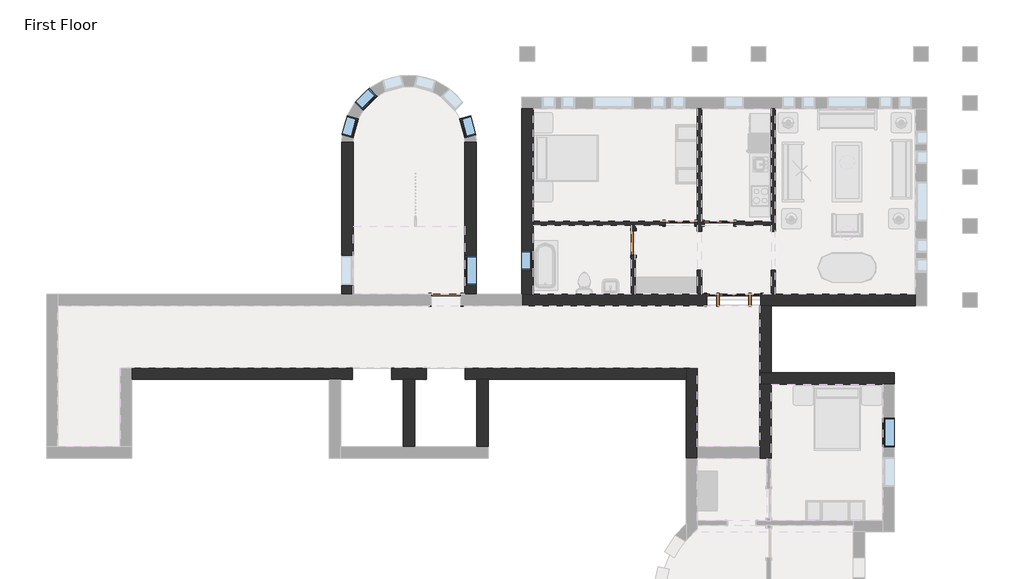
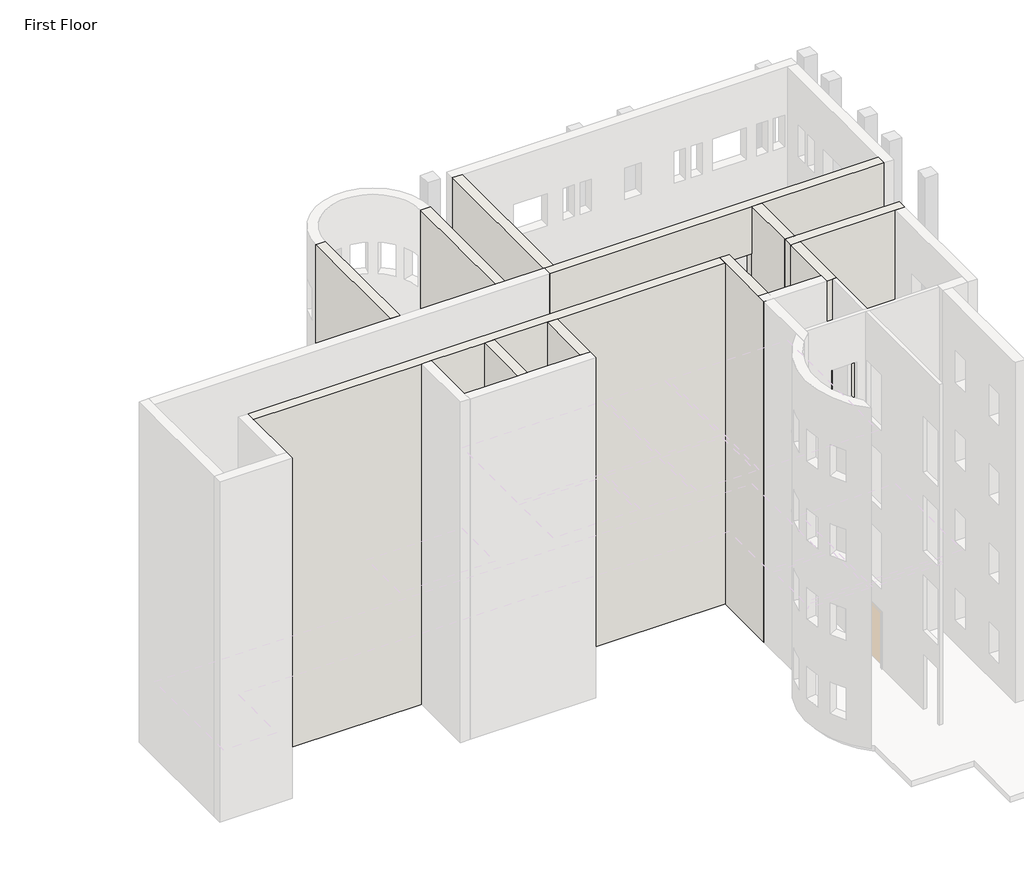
# One storey, part 3 of 8: 17 walls, 6 windows, 5 doors.
"""IFC4 building model written with IfcOpenShell, lengths in millimetres."""

from ifc_helpers import new_model, si_unit, frame, origin, origin_with_axes, place, context, project, spatial, polyline, outline, extrude, faceted_brep, transform, mapped, element, save
from components import door_829da954, door_2e3b4da2, door_4d6c7550, door_632be17d, door_dba5aa2e, window_60baf983, window_15c49d37, m_fixed_0915_x_1220mm_ca90dcf7

model = new_model("IFC4")

# Units and contexts
model_context = context("Model", 3, world=origin())
ifc_project = project(units=[si_unit("LENGTHUNIT", "METRE", prefix="MILLI")], contexts=[model_context])

# Site, building, storey
site = spatial("IfcSite", under=ifc_project)
building = spatial("IfcBuilding", under=site)
storey = spatial("IfcBuildingStorey", under=building, Name="First Floor", Elevation=0.0)

# Doors
placement = place(None, origin())
door_shape = door_829da954(model_context)
element("IfcDoor", 1, ObjectType="Single-Decorative 2 : 36\" x 84\"", at=placement, inside=storey, context=model_context, shape_type="MappedRepresentation", body=[
    mapped(door_shape, transform((-5449.8589563, 6723.5441867, 0.0), x_axis=(-1.0, 0.0, 0.0), y_axis=(0.0, -1.0, 0.0), z_axis=(0.0, 0.0, 1.0))),
])
door_2_shape = door_2e3b4da2(model_context)
element("IfcDoor", 2, ObjectType="Single-Decorative 2 : 36\" x 84\"", at=placement, inside=storey, context=model_context, shape_type="MappedRepresentation", body=[
    mapped(door_2_shape, transform((-6669.0589563, 6723.5441867, 0.0), x_axis=(1.0, 0.0, 0.0), y_axis=(0.0, 1.0, 0.0), z_axis=(0.0, 0.0, 1.0))),
])
door_3_shape = door_4d6c7550(model_context)
element("IfcDoor", 3, ObjectType="Single-Flush : 30\" x 84\"", at=placement, inside=storey, context=model_context, shape_type="MappedRepresentation", body=[
    mapped(door_3_shape, transform((-8105.7464563, 6113.9441867, 0.0), x_axis=(0.0, 1.0, 0.0), y_axis=(-1.0, 0.0, 0.0), z_axis=(0.0, 0.0, 1.0))),
])
door_4_shape = door_632be17d(model_context)
element("IfcDoor", 4, ObjectType="Single-Flush : 36\" x 84\"", at=placement, inside=storey, context=model_context, shape_type="MappedRepresentation", body=[
    mapped(door_4_shape, transform((-13919.1714563, 4350.2316867, 0.0), x_axis=(1.0, 0.0, 0.0), y_axis=(0.0, 1.0, 0.0), z_axis=(0.0, 0.0, 1.0))),
])
door_5_shape = door_dba5aa2e(model_context)
element("IfcDoor", 5, ObjectType="Single-Raised Panel with Sidelights : 36\" x 84\"", at=placement, inside=storey, context=model_context, shape_type="MappedRepresentation", body=[
    mapped(door_5_shape, transform((-4992.6589563, 4350.2316867, 0.0), x_axis=(-1.0, 0.0, 0.0), y_axis=(0.0, -1.0, 0.0), z_axis=(0.0, 0.0, 1.0))),
])

# Walls
element("IfcWall", 6, ObjectType="Exterior - Brick on Mtl. Stud", at=placement, inside=storey, context=model_context, shape_type="Brep", body=[
    faceted_brep([(-11545.8589563, 4526.4441867, 13106.4), (-11545.8589563, 4526.4441867, 0.0), (-11545.8589563, 4174.0191867, 0.0), (-11545.8589563, 4174.0191867, 13106.4), (-11217.2464563, 4526.4441867, 0.0), (-8169.2464563, 4526.4441867, 0.0), (-8042.2464563, 4526.4441867, 0.0), (-6122.9589563, 4526.4441867, 0.0), (-5995.9589563, 4526.4441867, 0.0), (-5830.8589563, 4526.4441867, 0.0), (-5830.8589563, 4174.0191867, 0.0), (-4154.4589563, 4526.4441867, 0.0), (-3836.9589563, 4526.4441867, 0.0), (-3709.9589563, 4526.4441867, 0.0), (622.3285437, 4526.4441867, 0.0), (622.3285437, 4174.0191867, 0.0), (-3836.9589563, 4174.0191867, 0.0), (-4154.4589563, 4174.0191867, 0.0), (622.3285437, 4526.4441867, 13106.4), (-11217.2464563, 4526.4441867, 13106.4), (-4189.3839563, 4174.0191867, 13106.4), (-3836.9589563, 4174.0191867, 13106.4), (622.3285437, 4174.0191867, 13106.4), (-5830.8589563, 4526.4441867, 2133.6), (-4154.4589563, 4526.4441867, 2133.6), (-4154.4589563, 4526.4441867, 6096.0), (-4154.4589563, 4526.4441867, 8229.6), (-5830.8589563, 4526.4441867, 8229.6), (-5830.8589563, 4526.4441867, 6096.0), (-4154.4589563, 4526.4441867, 3048.0), (-4154.4589563, 4526.4441867, 5181.6), (-5830.8589563, 4526.4441867, 5181.6), (-5830.8589563, 4526.4441867, 3048.0), (-4154.4589563, 4526.4441867, 9144.0), (-4154.4589563, 4526.4441867, 11277.6), (-5830.8589563, 4526.4441867, 11277.6), (-5830.8589563, 4526.4441867, 9144.0), (-5830.8589563, 4174.0191867, 2133.6), (-4154.4589563, 4174.0191867, 2133.6), (-4154.4589563, 4174.0191867, 6096.0), (-5830.8589563, 4174.0191867, 6096.0), (-5830.8589563, 4174.0191867, 8229.6), (-4154.4589563, 4174.0191867, 8229.6), (-4154.4589563, 4174.0191867, 3048.0), (-5830.8589563, 4174.0191867, 3048.0), (-5830.8589563, 4174.0191867, 5181.6), (-4154.4589563, 4174.0191867, 5181.6), (-4154.4589563, 4174.0191867, 9144.0), (-5830.8589563, 4174.0191867, 9144.0), (-5830.8589563, 4174.0191867, 11277.6), (-4154.4589563, 4174.0191867, 11277.6)], [[[0, 1, 2, 3]], [[1, 4, 5, 6, 7, 8, 9, 10, 2]], [[11, 12, 13, 14, 15, 16, 17]], [[18, 19, 0, 3, 20, 21, 22]], [[23, 9, 8, 7, 6, 5, 4, 1, 0, 19, 18, 14, 13, 12, 11, 24], [25, 26, 27, 28], [29, 30, 31, 32], [33, 34, 35, 36]], [[2, 10, 37, 38, 17, 16, 15, 22, 21, 20, 3], [39, 40, 41, 42], [43, 44, 45, 46], [47, 48, 49, 50]], [[14, 18, 22, 15]], [[37, 10, 9, 23]], [[38, 37, 23, 24]], [[17, 38, 24, 11]], [[40, 39, 25, 28]], [[41, 40, 28, 27]], [[42, 41, 27, 26]], [[39, 42, 26, 25]], [[44, 43, 29, 32]], [[45, 44, 32, 31]], [[46, 45, 31, 30]], [[43, 46, 30, 29]], [[48, 47, 33, 36]], [[49, 48, 36, 35]], [[50, 49, 35, 34]], [[47, 50, 34, 33]]]),
])
element("IfcWall", 7, ObjectType="Exterior - Brick on Mtl. Stud", at=placement, inside=storey, context=model_context, shape_type="Brep", body=[
    faceted_brep([(-11217.2464563, 4526.4441867, 13106.4), (-11217.2464563, 10270.0191867, 13106.4), (-11569.6714563, 10270.0191867, 13106.4), (-11569.6714563, 4526.4441867, 13106.4), (-11545.8589563, 4526.4441867, 13106.4), (-11217.2464563, 4526.4441867, 0.0), (-11217.2464563, 6660.0441867, 0.0), (-11217.2464563, 6787.0441867, 0.0), (-11217.2464563, 10270.0191867, 0.0), (-11217.2464563, 5264.6316867, 8229.6), (-11217.2464563, 5874.2316867, 8229.6), (-11217.2464563, 5874.2316867, 7010.4), (-11217.2464563, 5264.6316867, 7010.4), (-11217.2464563, 5264.6316867, 5181.6), (-11217.2464563, 5874.2316867, 5181.6), (-11217.2464563, 5874.2316867, 3962.4), (-11217.2464563, 5264.6316867, 3962.4), (-11217.2464563, 5264.6316867, 11277.6), (-11217.2464563, 5874.2316867, 11277.6), (-11217.2464563, 5874.2316867, 10058.4), (-11217.2464563, 5264.6316867, 10058.4), (-11217.2464563, 5264.6316867, 2133.6), (-11217.2464563, 5874.2316867, 2133.6), (-11217.2464563, 5874.2316867, 914.4), (-11217.2464563, 5264.6316867, 914.4), (-11569.6714563, 4526.4441867, 0.0), (-11569.6714563, 10270.0191867, 0.0), (-11569.6714563, 5264.6316867, 8229.6), (-11569.6714563, 5264.6316867, 7010.4), (-11569.6714563, 5874.2316867, 7010.4), (-11569.6714563, 5874.2316867, 8229.6), (-11569.6714563, 5264.6316867, 5181.6), (-11569.6714563, 5264.6316867, 3962.4), (-11569.6714563, 5874.2316867, 3962.4), (-11569.6714563, 5874.2316867, 5181.6), (-11569.6714563, 5264.6316867, 11277.6), (-11569.6714563, 5264.6316867, 10058.4), (-11569.6714563, 5874.2316867, 10058.4), (-11569.6714563, 5874.2316867, 11277.6), (-11569.6714563, 5264.6316867, 2133.6), (-11569.6714563, 5264.6316867, 914.4), (-11569.6714563, 5874.2316867, 914.4), (-11569.6714563, 5874.2316867, 2133.6), (-11545.8589563, 4526.4441867, 0.0), (-11382.3464563, 4526.4441867, 0.0), (-11382.3464563, 10270.0191867, 0.0)], [[[0, 1, 2, 3, 4]], [[5, 6, 7, 8, 1, 0], [9, 10, 11, 12], [13, 14, 15, 16], [17, 18, 19, 20], [21, 22, 23, 24]], [[25, 3, 2, 26], [27, 28, 29, 30], [31, 32, 33, 34], [35, 36, 37, 38], [39, 40, 41, 42]], [[5, 0, 4, 3, 25, 43, 44]], [[1, 8, 45, 26, 2]], [[44, 43, 25, 26, 45]], [[8, 7, 6, 5, 44, 45]], [[28, 27, 9, 12]], [[29, 28, 12, 11]], [[30, 29, 11, 10]], [[27, 30, 10, 9]], [[32, 31, 13, 16]], [[33, 32, 16, 15]], [[34, 33, 15, 14]], [[31, 34, 14, 13]], [[36, 35, 17, 20]], [[37, 36, 20, 19]], [[38, 37, 19, 18]], [[35, 38, 18, 17]], [[40, 39, 21, 24]], [[41, 40, 24, 23]], [[42, 41, 23, 22]], [[39, 42, 22, 21]]]),
])
element("IfcWall", 8, ObjectType="Exterior - Brick on Mtl. Stud", at=placement, inside=storey, context=model_context, shape_type="SweptSolid", body=[
    extrude(outline(polyline([(-12599.9589563, 1888.0191867), (-12599.9589563, -197.9558133), (-12952.3839563, -197.9558133), (-12952.3839563, 1888.0191867), (-12599.9589563, 1888.0191867)])), origin_with_axes(), (0.0, 0.0, 1.0), 13106.4),
])
element("IfcWall", 9, ObjectType="Exterior - Brick on Mtl. Stud", at=placement, inside=storey, context=model_context, shape_type="Brep", body=[
    faceted_brep([(-23648.9589563, 2240.4441867, 0.0), (-16814.7714563, 2240.4441867, 0.0), (-16814.7714563, 1888.0191867, 0.0), (-17171.9589563, 1888.0191867, 0.0), (-17524.3839563, 1888.0191867, 0.0), (-23648.9589563, 1888.0191867, 0.0), (-15595.5714563, 2240.4441867, 0.0), (-14528.7714563, 2240.4441867, 0.0), (-14528.7714563, 1888.0191867, 0.0), (-14885.9589563, 1888.0191867, 0.0), (-15238.3839563, 1888.0191867, 0.0), (-15595.5714563, 1888.0191867, 0.0), (-13309.5714563, 2240.4441867, 0.0), (-6475.3839563, 2240.4441867, 0.0), (-6475.3839563, 1888.0191867, 0.0), (-12599.9589563, 1888.0191867, 0.0), (-12952.3839563, 1888.0191867, 0.0), (-13309.5714563, 1888.0191867, 0.0), (-23648.9589563, 1888.0191867, 13106.4), (-17524.3839563, 1888.0191867, 13106.4), (-17171.9589563, 1888.0191867, 13106.4), (-15238.3839563, 1888.0191867, 13106.4), (-14885.9589563, 1888.0191867, 13106.4), (-12952.3839563, 1888.0191867, 13106.4), (-12599.9589563, 1888.0191867, 13106.4), (-6475.3839563, 1888.0191867, 13106.4), (-6475.3839563, 2240.4441867, 13106.4), (-23648.9589563, 2240.4441867, 13106.4), (-14528.7714563, 1888.0191867, 2133.6), (-13309.5714563, 1888.0191867, 2133.6), (-16814.7714563, 1888.0191867, 2133.6), (-15595.5714563, 1888.0191867, 2133.6), (-13309.5714563, 1888.0191867, 8229.6), (-13309.5714563, 1888.0191867, 6096.0), (-14528.7714563, 1888.0191867, 6096.0), (-14528.7714563, 1888.0191867, 8229.6), (-15595.5714563, 1888.0191867, 8229.6), (-15595.5714563, 1888.0191867, 6096.0), (-16814.7714563, 1888.0191867, 6096.0), (-16814.7714563, 1888.0191867, 8229.6), (-13309.5714563, 1888.0191867, 5181.6), (-13309.5714563, 1888.0191867, 3048.0), (-14528.7714563, 1888.0191867, 3048.0), (-14528.7714563, 1888.0191867, 5181.6), (-15595.5714563, 1888.0191867, 5181.6), (-15595.5714563, 1888.0191867, 3048.0), (-16814.7714563, 1888.0191867, 3048.0), (-16814.7714563, 1888.0191867, 5181.6), (-13309.5714563, 1888.0191867, 11277.6), (-13309.5714563, 1888.0191867, 9144.0), (-14528.7714563, 1888.0191867, 9144.0), (-14528.7714563, 1888.0191867, 11277.6), (-15595.5714563, 1888.0191867, 11277.6), (-15595.5714563, 1888.0191867, 9144.0), (-16814.7714563, 1888.0191867, 9144.0), (-16814.7714563, 1888.0191867, 11277.6), (-14528.7714563, 2240.4441867, 2133.6), (-15595.5714563, 2240.4441867, 2133.6), (-16814.7714563, 2240.4441867, 2133.6), (-13309.5714563, 2240.4441867, 2133.6), (-13309.5714563, 2240.4441867, 8229.6), (-14528.7714563, 2240.4441867, 8229.6), (-14528.7714563, 2240.4441867, 6096.0), (-13309.5714563, 2240.4441867, 6096.0), (-15595.5714563, 2240.4441867, 8229.6), (-16814.7714563, 2240.4441867, 8229.6), (-16814.7714563, 2240.4441867, 6096.0), (-15595.5714563, 2240.4441867, 6096.0), (-13309.5714563, 2240.4441867, 5181.6), (-14528.7714563, 2240.4441867, 5181.6), (-14528.7714563, 2240.4441867, 3048.0), (-13309.5714563, 2240.4441867, 3048.0), (-15595.5714563, 2240.4441867, 5181.6), (-16814.7714563, 2240.4441867, 5181.6), (-16814.7714563, 2240.4441867, 3048.0), (-15595.5714563, 2240.4441867, 3048.0), (-13309.5714563, 2240.4441867, 11277.6), (-14528.7714563, 2240.4441867, 11277.6), (-14528.7714563, 2240.4441867, 9144.0), (-13309.5714563, 2240.4441867, 9144.0), (-15595.5714563, 2240.4441867, 11277.6), (-16814.7714563, 2240.4441867, 11277.6), (-16814.7714563, 2240.4441867, 9144.0), (-15595.5714563, 2240.4441867, 9144.0)], [[[0, 1, 2, 3, 4, 5]], [[6, 7, 8, 9, 10, 11]], [[12, 13, 14, 15, 16, 17]], [[18, 19, 20, 21, 22, 23, 24, 25, 26, 27]], [[11, 10, 9, 8, 28, 29, 17, 16, 15, 14, 25, 24, 23, 22, 21, 20, 19, 18, 5, 4, 3, 2, 30, 31], [32, 33, 34, 35], [36, 37, 38, 39], [40, 41, 42, 43], [44, 45, 46, 47], [48, 49, 50, 51], [52, 53, 54, 55]], [[56, 7, 6, 57, 58, 1, 0, 27, 26, 13, 12, 59], [60, 61, 62, 63], [64, 65, 66, 67], [68, 69, 70, 71], [72, 73, 74, 75], [76, 77, 78, 79], [80, 81, 82, 83]], [[25, 14, 13, 26]], [[5, 18, 27, 0]], [[11, 31, 57, 6]], [[30, 2, 1, 58]], [[31, 30, 58, 57]], [[17, 29, 59, 12]], [[28, 8, 7, 56]], [[29, 28, 56, 59]], [[33, 32, 60, 63]], [[34, 33, 63, 62]], [[35, 34, 62, 61]], [[32, 35, 61, 60]], [[37, 36, 64, 67]], [[38, 37, 67, 66]], [[39, 38, 66, 65]], [[36, 39, 65, 64]], [[41, 40, 68, 71]], [[42, 41, 71, 70]], [[43, 42, 70, 69]], [[40, 43, 69, 68]], [[45, 44, 72, 75]], [[46, 45, 75, 74]], [[47, 46, 74, 73]], [[44, 47, 73, 72]], [[49, 48, 76, 79]], [[50, 49, 79, 78]], [[51, 50, 78, 77]], [[48, 51, 77, 76]], [[53, 52, 80, 83]], [[54, 53, 83, 82]], [[55, 54, 82, 81]], [[52, 55, 81, 80]]]),
])
element("IfcWall", 10, ObjectType="Exterior - Brick on Mtl. Stud", at=placement, inside=storey, context=model_context, shape_type="SweptSolid", body=[
    extrude(outline(polyline([(4526.4441867, 0.0), (4526.4441867, 13106.4), (9227.0316867, 13106.4), (9227.0316867, 0.0), (4526.4441867, 0.0)]), holes=[polyline([(4807.4316867, 8229.6), (4807.4316867, 7010.4), (5721.8316867, 7010.4), (5721.8316867, 8229.6), (4807.4316867, 8229.6)]), polyline([(4807.4316867, 5181.6), (4807.4316867, 3962.4), (5721.8316867, 3962.4), (5721.8316867, 5181.6), (4807.4316867, 5181.6)]), polyline([(4807.4316867, 11277.6), (4807.4316867, 10058.4), (5721.8316867, 10058.4), (5721.8316867, 11277.6), (4807.4316867, 11277.6)]), polyline([(4807.4316867, 2133.6), (4807.4316867, 914.4), (5721.8316867, 914.4), (5721.8316867, 2133.6), (4807.4316867, 2133.6)])]), frame((-17143.3839563, 0.0, 0.0), z_axis=(1.0, 0.0, 0.0), x_axis=(0.0, 1.0, 0.0)), (0.0, 0.0, 1.0), 352.425),
])
element("IfcWall", 11, ObjectType="Exterior - Brick on Mtl. Stud", at=placement, inside=storey, context=model_context, shape_type="SweptSolid", body=[
    extrude(outline(polyline([(4526.4441867, 0.0), (4526.4441867, 13106.4), (9227.0316867, 13106.4), (9227.0316867, 0.0), (4526.4441867, 0.0)]), holes=[polyline([(5721.8316867, 8229.6), (4807.4316867, 8229.6), (4807.4316867, 7010.4), (5721.8316867, 7010.4), (5721.8316867, 8229.6)]), polyline([(5721.8316867, 5181.6), (4807.4316867, 5181.6), (4807.4316867, 3962.4), (5721.8316867, 3962.4), (5721.8316867, 5181.6)]), polyline([(5721.8316867, 11277.6), (4807.4316867, 11277.6), (4807.4316867, 10058.4), (5721.8316867, 10058.4), (5721.8316867, 11277.6)]), polyline([(5721.8316867, 2133.6), (4807.4316867, 2133.6), (4807.4316867, 914.4), (5721.8316867, 914.4), (5721.8316867, 2133.6)])]), frame((-13333.3839563, 0.0, 0.0), z_axis=(1.0, 0.0, 0.0), x_axis=(0.0, 1.0, 0.0)), (0.0, 0.0, 1.0), 352.425),
])
element("IfcWall", 12, ObjectType="Exterior - Brick on Mtl. Stud", at=placement, inside=storey, context=model_context, shape_type="SweptSolid", body=[
    extrude(outline(polyline([(-14885.9589563, 1888.0191867), (-14885.9589563, -197.9558133), (-15238.3839563, -197.9558133), (-15238.3839563, 1888.0191867), (-14885.9589563, 1888.0191867)])), origin_with_axes(), (0.0, 0.0, 1.0), 13106.4),
])
element("IfcWall", 13, ObjectType="Exterior - Brick on Mtl. Stud", at=placement, inside=storey, context=model_context, shape_type="Brep", body=[
    faceted_brep([(-6475.3839563, 2240.4441867, 0.0), (-6475.3839563, 1888.0191867, 0.0), (-6475.3839563, -550.3808133, 0.0), (-6475.3839563, -550.3808133, 13106.4), (-6475.3839563, -197.9558133, 13106.4), (-6475.3839563, 1888.0191867, 13106.4), (-6475.3839563, 2240.4441867, 13106.4), (-6122.9589563, 2240.4441867, 0.0), (-6122.9589563, 2240.4441867, 13106.4), (-6122.9589563, -197.9558133, 13106.4), (-6122.9589563, -550.3808133, 13106.4), (-6122.9589563, -550.3808133, 0.0), (-6122.9589563, -197.9558133, 0.0)], [[[0, 1, 2, 3, 4, 5, 6]], [[7, 8, 9, 10, 11, 12]], [[2, 1, 0, 7, 12, 11]], [[6, 5, 4, 3, 10, 9, 8]], [[0, 6, 8, 7]], [[3, 2, 11, 10]]]),
])
element("IfcWall", 14, ObjectType="Exterior - Brick on Mtl. Stud", at=placement, inside=storey, context=model_context, shape_type="SweptSolid", body=[
    extrude(outline(polyline([(-3836.9589563, 2089.6316867), (-3836.9589563, 2088.0441867), (-4189.3839563, 2088.0441867), (-4189.3839563, 2089.6316867), (-3836.9589563, 2089.6316867)])), origin_with_axes(), (0.0, 0.0, 1.0), 13106.4),
])
element("IfcWall", 15, ObjectType="Exterior - Brick on Mtl. Stud", at=placement, inside=storey, context=model_context, shape_type="Brep", body=[
    faceted_brep([(-4189.3839563, 1735.6191867, 13107.0), (-4189.3839563, 1735.6191867, 0.0), (-3836.9589563, 1735.6191867, 0.0), (-379.3839563, 1735.6191867, 0.0), (-26.9589563, 1735.6191867, 0.0), (-26.9589563, 1735.6191867, 13107.0), (-379.3839563, 1735.6191867, 13107.0), (-3836.9589563, 1735.6191867, 13107.0), (-4189.3839563, 2088.0441867, 0.0), (-4189.3839563, 2088.0441867, 13106.4), (-4189.3839563, 2088.0441867, 13107.0), (-26.9589563, 2088.0441867, 13107.0), (-26.9589563, 2088.0441867, 0.0), (-3836.9589563, 2088.0441867, 0.0)], [[[0, 1, 2, 3, 4, 5, 6, 7]], [[8, 9, 10, 11, 12, 13]], [[4, 3, 2, 1, 8, 13, 12]], [[0, 7, 6, 5, 11, 10]], [[5, 4, 12, 11]], [[0, 10, 9, 8, 1]]]),
])
element("IfcWall", 16, ObjectType="Exterior - Brick on Mtl. Stud", at=placement, inside=storey, context=model_context, shape_type="Brep", body=[
    faceted_brep([(-4189.3839563, 1735.6191867, 13107.0), (-4189.3839563, 1735.6191867, 0.0), (-4189.3839563, -197.9558133, 0.0), (-4189.3839563, -550.3808133, 0.0), (-4189.3839563, -550.3808133, 13107.0), (-4189.3839563, -197.9558133, 13107.0), (-3836.9589563, 1735.6191867, 0.0), (-3836.9589563, 1735.6191867, 13107.0), (-3836.9589563, -550.3808133, 13107.0), (-3836.9589563, -550.3808133, 0.0), (-3845.4214563, -550.3808133, 0.0), (-3980.9214563, -550.3808133, 0.0), (-3980.9214563, -550.3808133, 13107.0), (-3845.4214563, -550.3808133, 13107.0)], [[[0, 1, 2, 3, 4, 5]], [[6, 7, 8, 9]], [[3, 2, 1, 6, 9, 10, 11]], [[0, 5, 4, 12, 13, 8, 7]], [[4, 3, 11, 10, 9, 8, 13, 12]], [[0, 7, 6, 1]]]),
])
element("IfcWall", 17, ObjectType="Exterior - Brick on Mtl. Stud", at=placement, inside=storey, context=model_context, shape_type="Brep", body=[
    faceted_brep([(-3836.9589563, 2089.6316867, 0.0), (-3836.9589563, 4174.0191867, 0.0), (-3836.9589563, 4174.0191867, 13106.4), (-3836.9589563, 2089.6316867, 13106.4), (-4189.3839563, 2089.6316867, 0.0), (-4189.3839563, 2089.6316867, 13106.4), (-4189.3839563, 4174.0191867, 13106.4), (-4189.3839563, 4174.0191867, 0.0), (-4154.4589563, 4174.0191867, 0.0)], [[[0, 1, 2, 3]], [[4, 5, 6, 7]], [[1, 0, 4, 7, 8]], [[3, 2, 6, 5]], [[0, 3, 5, 4]], [[2, 1, 8, 7, 6]]]),
])
element("IfcWall", 18, ObjectType="Interior - 5\" Partition (2-hr)", at=placement, inside=storey, context=model_context, shape_type="Brep", body=[
    faceted_brep([(-3709.9589563, 10270.0191867, 0.0), (-3709.9589563, 6483.8316867, 0.0), (-3836.9589563, 6483.8316867, 0.0), (-3836.9589563, 6660.0441867, 0.0), (-3836.9589563, 6787.0441867, 0.0), (-3836.9589563, 10270.0191867, 0.0), (-3709.9589563, 5264.6316867, 0.0), (-3709.9589563, 4526.4441867, 0.0), (-3836.9589563, 4526.4441867, 0.0), (-3836.9589563, 5264.6316867, 0.0), (-3836.9589563, 10270.0191867, 3048.0), (-3836.9589563, 6787.0441867, 3048.0), (-3836.9589563, 6660.0441867, 3048.0), (-3836.9589563, 4526.4441867, 3048.0), (-3709.9589563, 4526.4441867, 3048.0), (-3709.9589563, 10270.0191867, 3048.0), (-3836.9589563, 6483.8316867, 2133.6), (-3836.9589563, 5264.6316867, 2133.6), (-3709.9589563, 6483.8316867, 2133.6), (-3709.9589563, 5264.6316867, 2133.6)], [[[0, 1, 2, 3, 4, 5]], [[6, 7, 8, 9]], [[10, 11, 12, 13, 14, 15]], [[5, 4, 3, 2, 16, 17, 9, 8, 13, 12, 11, 10]], [[18, 1, 0, 15, 14, 7, 6, 19]], [[5, 10, 15, 0]], [[13, 8, 7, 14]], [[9, 17, 19, 6]], [[16, 2, 1, 18]], [[17, 16, 18, 19]]]),
])
element("IfcWall", 19, ObjectType="Interior - 5\" Partition (2-hr)", at=placement, inside=storey, context=model_context, shape_type="Brep", body=[
    faceted_brep([(-6122.9589563, 4526.4441867, 0.0), (-6122.9589563, 5264.6316867, 0.0), (-5995.9589563, 5264.6316867, 0.0), (-5995.9589563, 4526.4441867, 0.0), (-6122.9589563, 6483.8316867, 0.0), (-6122.9589563, 6660.0441867, 0.0), (-6122.9589563, 6787.0441867, 0.0), (-6122.9589563, 10270.0191867, 0.0), (-5995.9589563, 10270.0191867, 0.0), (-5995.9589563, 6787.0441867, 0.0), (-5995.9589563, 6660.0441867, 0.0), (-5995.9589563, 6483.8316867, 0.0), (-6122.9589563, 10270.0191867, 3048.0), (-6122.9589563, 6787.0441867, 3048.0), (-6122.9589563, 6660.0441867, 3048.0), (-6122.9589563, 4526.4441867, 3048.0), (-5995.9589563, 4526.4441867, 3048.0), (-5995.9589563, 6660.0441867, 3048.0), (-5995.9589563, 6787.0441867, 3048.0), (-5995.9589563, 10270.0191867, 3048.0), (-6122.9589563, 5264.6316867, 2133.6), (-6122.9589563, 6483.8316867, 2133.6), (-5995.9589563, 5264.6316867, 2133.6), (-5995.9589563, 6483.8316867, 2133.6)], [[[0, 1, 2, 3]], [[4, 5, 6, 7, 8, 9, 10, 11]], [[12, 13, 14, 15, 16, 17, 18, 19]], [[20, 1, 0, 15, 14, 13, 12, 7, 6, 5, 4, 21]], [[3, 2, 22, 23, 11, 10, 9, 8, 19, 18, 17, 16]], [[7, 12, 19, 8]], [[15, 0, 3, 16]], [[11, 23, 21, 4]], [[22, 2, 1, 20]], [[23, 22, 20, 21]]]),
])
element("IfcWall", 20, ObjectType="Interior - 5\" Partition (2-hr)", at=placement, inside=storey, context=model_context, shape_type="Brep", body=[
    faceted_brep([(-6122.9589563, 6660.0441867, 0.0), (-6211.8589563, 6660.0441867, 0.0), (-6211.8589563, 6787.0441867, 0.0), (-6122.9589563, 6787.0441867, 0.0), (-7126.2589563, 6660.0441867, 0.0), (-8042.2464563, 6660.0441867, 0.0), (-8169.2464563, 6660.0441867, 0.0), (-11217.2464563, 6660.0441867, 0.0), (-11217.2464563, 6787.0441867, 0.0), (-7126.2589563, 6787.0441867, 0.0), (-11217.2464563, 6660.0441867, 3048.0), (-8169.2464563, 6660.0441867, 3048.0), (-8042.2464563, 6660.0441867, 3048.0), (-6122.9589563, 6660.0441867, 3048.0), (-6122.9589563, 6787.0441867, 3048.0), (-11217.2464563, 6787.0441867, 3048.0), (-6211.8589563, 6660.0441867, 2133.6), (-7126.2589563, 6660.0441867, 2133.6), (-6211.8589563, 6787.0441867, 2133.6), (-7126.2589563, 6787.0441867, 2133.6)], [[[0, 1, 2, 3]], [[4, 5, 6, 7, 8, 9]], [[10, 11, 12, 13, 14, 15]], [[16, 1, 0, 13, 12, 11, 10, 7, 6, 5, 4, 17]], [[3, 2, 18, 19, 9, 8, 15, 14]], [[7, 10, 15, 8]], [[13, 0, 3, 14]], [[18, 2, 1, 16]], [[19, 18, 16, 17]], [[9, 19, 17, 4]]]),
])
element("IfcWall", 21, ObjectType="Interior - 5\" Partition (2-hr)", at=placement, inside=storey, context=model_context, shape_type="SweptSolid", body=[
    extrude(outline(polyline([(6660.0441867, 0.0), (6494.9441867, 0.0), (6494.9441867, 2133.6), (5732.9441867, 2133.6), (5732.9441867, 0.0), (4526.4441867, 0.0), (4526.4441867, 3048.0), (6660.0441867, 3048.0), (6660.0441867, 0.0)])), frame((-8169.2464563, 0.0, 0.0), z_axis=(1.0, 0.0, 0.0), x_axis=(0.0, 1.0, 0.0)), (0.0, 0.0, 1.0), 127.0),
])
element("IfcWall", 22, ObjectType="Interior - 5\" Partition (2-hr)", at=placement, inside=storey, context=model_context, shape_type="SweptSolid", body=[
    extrude(outline(polyline([(0.0, -5995.9589563), (0.0, -5907.0589563), (2133.6, -5907.0589563), (2133.6, -4992.6589563), (0.0, -4992.6589563), (0.0, -3836.9589563), (3048.0, -3836.9589563), (3048.0, -5995.9589563), (0.0, -5995.9589563)])), frame((0.0, 6660.0441867, 0.0), z_axis=(0.0, 1.0, 0.0), x_axis=(0.0, 0.0, 1.0)), (0.0, 0.0, 1.0), 127.0),
])

# Windows
window_shape = window_60baf983(model_context)
element("IfcWindow", 23, ObjectType="Fixed : 24\" x 48\"", at=placement, inside=storey, context=model_context, shape_type="MappedRepresentation", body=[
    mapped(window_shape, transform((-11393.4589563, 5531.3316867, 0.0), x_axis=(0.0, -1.0, 0.0), y_axis=(1.0, 0.0, 0.0), z_axis=(0.0, 0.0, 1.0))),
])
element("IfcWindow", 24, ObjectType="Fixed : 24\" x 48\"", at=placement, inside=storey, context=model_context, shape_type="MappedRepresentation", body=[
    mapped(window_shape, transform((-16889.064163, 9683.0417496, 0.0), x_axis=(-0.2617614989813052, -0.9651325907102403, 0.0), y_axis=(0.9651325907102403, -0.2617614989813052, 0.0), z_axis=(0.0, 0.0, 1.0))),
])
element("IfcWindow", 25, ObjectType="Fixed : 24\" x 48\"", at=placement, inside=storey, context=model_context, shape_type="MappedRepresentation", body=[
    mapped(window_shape, transform((-16416.3019188, 10535.3943388, 0.0), x_axis=(-0.7092584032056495, -0.7049485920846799, 0.0), y_axis=(0.7049485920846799, -0.7092584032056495, 0.0), z_axis=(0.0, 0.0, 1.0))),
])
element("IfcWindow", 26, ObjectType="Fixed : 24\" x 48\"", at=placement, inside=storey, context=model_context, shape_type="MappedRepresentation", body=[
    mapped(window_shape, transform((-13252.0309309, 9745.5617412, 0.0), x_axis=(-0.25587418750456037, 0.9667100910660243, 0.0), y_axis=(-0.9667100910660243, -0.25587418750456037, 0.0), z_axis=(0.0, 0.0, 1.0))),
])
window_2_shape = window_15c49d37(model_context)
element("IfcWindow", 27, ObjectType="Fixed : 36\" x 48\"", at=placement, inside=storey, context=model_context, shape_type="MappedRepresentation", body=[
    mapped(window_2_shape, transform((-13157.1714563, 5302.7316867, 0.0), x_axis=(0.0, 1.0, 0.0), y_axis=(-1.0, 0.0, 0.0), z_axis=(0.0, 0.0, 1.0))),
])
m_fixed_0915_x_1220mm_shape = m_fixed_0915_x_1220mm_ca90dcf7(model_context)
element("IfcWindow", 28, ObjectType="M_Fixed : 0915 x 1220mm", at=placement, inside=storey, context=model_context, shape_type="MappedRepresentation", body=[
    mapped(m_fixed_0915_x_1220mm_shape, transform((-190.1714563, 235.4316867, 0.0), x_axis=(0.0, 1.0, 0.0), y_axis=(-1.0, 0.0, 0.0), z_axis=(0.0, 0.0, 1.0))),
])

save(model, "model.ifc")
